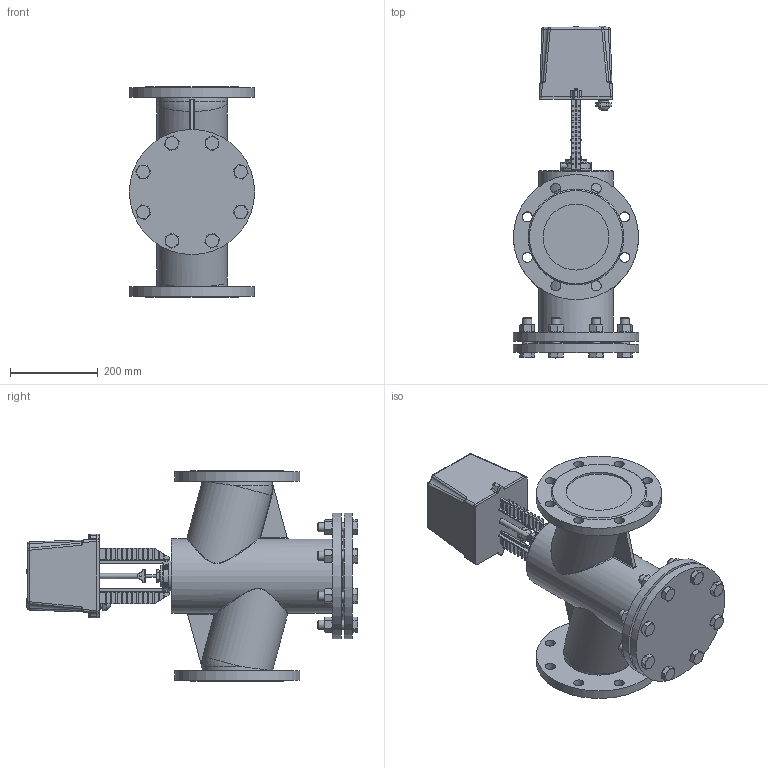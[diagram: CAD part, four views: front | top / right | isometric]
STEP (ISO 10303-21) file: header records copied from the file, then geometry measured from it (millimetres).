
FILE_DESCRIPTION(('STEP AP242'), '1');
FILE_NAME('VSR1-13V-PED-F Êëàïàí çàïîðíî-ðåãóëèðóþùèé DN.ru Äó150 Ðó16', '', ('UNSPECIFIED'), ('UNSPECIFIED'), 'C3D Converter', 'C3D Toolkit', '');
FILE_SCHEMA(('AP242_MANAGED_MODEL_BASED_3D_ENGINEERING_MIM_LF { 1 0 10303 442 1 1 4 }'));
Length unit declared in the file: millimetre
Products named in the file (1): VSR1-13V-PED-F
Bounding box: 285 x 755.5 x 480 mm (x, y, z)
Volume: 24244428.2 mm3; surface area: 1169872 mm2
Topology: 1 solids, 1 shells, 1471 faces, 3878 edges, 2425 vertices
Faces by surface type: plane 784, cylinder 263, extrusion 160, cone 104, bspline 82, torus 48, sphere 30
Full cylindrical faces by diameter (mm): 4 x2, 6 x4, 7 x2, 11.5 x3, 12 x2, 16 x1, 17.294 x8, 20 x8, 22 x8, 23 x24, 25 x1, 30 x8, 50 x1, 70 x1, 150 x2, 160 x2, 170 x1, 285 x4
Entity records: 68060 total; most frequent: CARTESIAN_POINT 25331, ORIENTED_EDGE 7342, DIRECTION 6337, EDGE_CURVE 3671, VERTEX_POINT 2416, VECTOR 2241, LINE 2081, AXIS2_PLACEMENT_3D 2048
